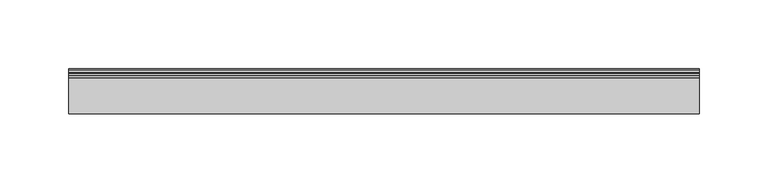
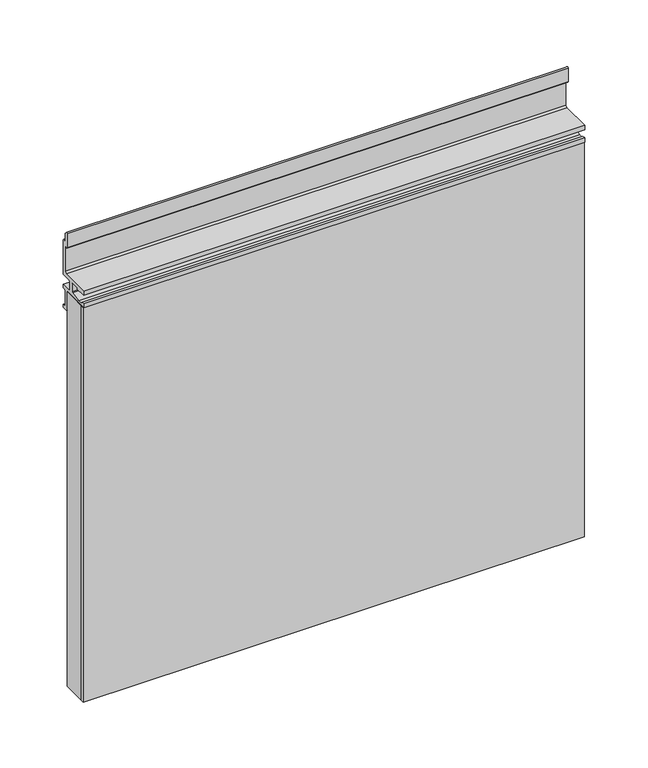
"""IFC4 building model written with IfcOpenShell, lengths in millimetres: furniture geometry, Geiger_GeigerOneCasegoods_WallTileAcceptsShelfandTil : 18Wx 1.25Dx 15H."""

from ifc_helpers import new_model, si_unit, point, frame, frame_2d, origin, origin_with_axes, place, context, project, spatial, polyline, circle_curve, trimmed, segment, composite_curve, outline, extrude, faceted_brep, source, transform, mapped, element, save


def furniture_85a4afa4(model_context):
    return source(origin(), model_context, "Body", "SolidModel", [
        faceted_brep([(0.0, -27.8892, 381.0), (0.0, -6.4008, 381.0), (0.0, -6.4008, 0.0), (0.0, -27.8892, 0.0), (45.5, -19.9008, 335.5), (45.5, -27.8892, 335.5), (45.5, -27.8892, 45.5), (45.5, -19.9008, 45.5), (62.0014, -8.4074, 318.9986), (62.0014, -19.9008, 318.9986), (62.0014, -19.9008, 62.0014), (62.0014, -8.4074, 62.0014), (64.6938, -9.1948, 316.3062), (64.6938, -8.4074, 316.3062), (64.6938, -8.4074, 64.6938), (64.6938, -9.1948, 64.6938), (66.294, -8.4074, 314.706), (66.294, -9.1948, 314.706), (66.294, -9.1948, 66.294), (66.294, -8.4074, 66.294), (67.4116, -9.1948, 313.5884), (67.4116, -8.4074, 313.5884), (67.4116, -8.4074, 67.4116), (67.4116, -9.1948, 67.4116), (69.0118, -8.4074, 311.9882), (69.0118, -9.1948, 311.9882), (69.0118, -9.1948, 69.0118), (69.0118, -8.4074, 69.0118), (70.0024, -6.4008, 310.9976), (70.0024, -8.4074, 310.9976), (70.0024, -8.4074, 70.0024), (70.0024, -6.4008, 70.0024), (43.0022, -8.4074, 337.9978), (43.0022, -6.4008, 337.9978), (43.0022, -6.4008, 43.0022), (43.0022, -8.4074, 43.0022), (43.9928, -9.1948, 337.0072), (43.9928, -8.4074, 337.0072), (43.9928, -8.4074, 43.9928), (43.9928, -9.1948, 43.9928), (45.593, -8.4074, 335.407), (45.593, -9.1948, 335.407), (45.593, -9.1948, 45.593), (45.593, -8.4074, 45.593), (46.7106, -9.1948, 334.2894), (46.7106, -8.4074, 334.2894), (46.7106, -8.4074, 46.7106), (46.7106, -9.1948, 46.7106), (48.3108, -8.4074, 332.6892), (48.3108, -9.1948, 332.6892), (48.3108, -9.1948, 48.3108), (48.3108, -8.4074, 48.3108), (51.0032, -13.4112, 329.9968), (51.0032, -8.4074, 329.9968), (51.0032, -8.4074, 51.0032), (51.0032, -13.4112, 51.0032), (31.8262, -16.4084, 349.1738), (34.8234, -13.4112, 346.1766), (34.8234, -13.4112, 34.8234), (31.8262, -16.4084, 31.8262), (8.001, -10.5664, 372.999), (13.8176, -16.4084, 367.1824), (13.8176, -16.4084, 13.8176), (8.001, -10.5664, 8.001), (8.001, -6.4008, 372.999), (8.001, -6.4008, 8.001), (457.2, -6.4008, 0.0), (457.2, -27.8892, 0.0), (411.7, -27.8892, 45.5), (411.7, -19.9008, 45.5), (395.1986, -19.9008, 62.0014), (395.1986, -8.4074, 62.0014), (392.5062, -8.4074, 64.6938), (392.5062, -9.1948, 64.6938), (390.906, -9.1948, 66.294), (390.906, -8.4074, 66.294), (389.7884, -8.4074, 67.4116), (389.7884, -9.1948, 67.4116), (388.1882, -9.1948, 69.0118), (388.1882, -8.4074, 69.0118), (387.1976, -8.4074, 70.0024), (387.1976, -6.4008, 70.0024), (414.1978, -6.4008, 43.0022), (414.1978, -8.4074, 43.0022), (413.2072, -8.4074, 43.9928), (413.2072, -9.1948, 43.9928), (411.607, -9.1948, 45.593), (411.607, -8.4074, 45.593), (410.4894, -8.4074, 46.7106), (410.4894, -9.1948, 46.7106), (408.8892, -9.1948, 48.3108), (408.8892, -8.4074, 48.3108), (406.1968, -8.4074, 51.0032), (406.1968, -13.4112, 51.0032), (422.3766, -13.4112, 34.8234), (425.3738, -16.4084, 31.8262), (443.3824, -16.4084, 13.8176), (449.199, -10.5664, 8.001), (449.199, -6.4008, 8.001), (457.2, -6.4008, 381.0), (457.2, -27.8892, 381.0), (411.7, -27.8892, 335.5), (411.7, -19.9008, 335.5), (395.1986, -19.9008, 318.9986), (395.1986, -8.4074, 318.9986), (392.5062, -8.4074, 316.3062), (392.5062, -9.1948, 316.3062), (390.906, -9.1948, 314.706), (390.906, -8.4074, 314.706), (389.7884, -8.4074, 313.5884), (389.7884, -9.1948, 313.5884), (388.1882, -9.1948, 311.9882), (388.1882, -8.4074, 311.9882), (387.1976, -8.4074, 310.9976), (387.1976, -6.4008, 310.9976), (414.1978, -6.4008, 337.9978), (414.1978, -8.4074, 337.9978), (413.2072, -8.4074, 337.0072), (413.2072, -9.1948, 337.0072), (411.607, -9.1948, 335.407), (411.607, -8.4074, 335.407), (410.4894, -8.4074, 334.2894), (410.4894, -9.1948, 334.2894), (408.8892, -9.1948, 332.6892), (408.8892, -8.4074, 332.6892), (406.1968, -8.4074, 329.9968), (406.1968, -13.4112, 329.9968), (422.3766, -13.4112, 346.1766), (425.3738, -16.4084, 349.1738), (443.3824, -16.4084, 367.1824), (449.199, -10.5664, 372.999), (449.199, -6.4008, 372.999)], [[[0, 1, 2, 3]], [[4, 5, 6, 7]], [[8, 9, 10, 11]], [[12, 13, 14, 15]], [[16, 17, 18, 19]], [[20, 21, 22, 23]], [[24, 25, 26, 27]], [[28, 29, 30, 31]], [[32, 33, 34, 35]], [[36, 37, 38, 39]], [[40, 41, 42, 43]], [[44, 45, 46, 47]], [[48, 49, 50, 51]], [[52, 53, 54, 55]], [[56, 57, 58, 59]], [[60, 61, 62, 63]], [[64, 60, 63, 65]], [[3, 2, 66, 67]], [[7, 6, 68, 69]], [[11, 10, 70, 71]], [[15, 14, 72, 73]], [[19, 18, 74, 75]], [[23, 22, 76, 77]], [[27, 26, 78, 79]], [[31, 30, 80, 81]], [[35, 34, 82, 83]], [[39, 38, 84, 85]], [[43, 42, 86, 87]], [[47, 46, 88, 89]], [[51, 50, 90, 91]], [[55, 54, 92, 93]], [[59, 58, 94, 95]], [[63, 62, 96, 97]], [[65, 63, 97, 98]], [[67, 66, 99, 100]], [[69, 68, 101, 102]], [[71, 70, 103, 104]], [[73, 72, 105, 106]], [[75, 74, 107, 108]], [[77, 76, 109, 110]], [[79, 78, 111, 112]], [[81, 80, 113, 114]], [[83, 82, 115, 116]], [[85, 84, 117, 118]], [[87, 86, 119, 120]], [[89, 88, 121, 122]], [[91, 90, 123, 124]], [[93, 92, 125, 126]], [[95, 94, 127, 128]], [[97, 96, 129, 130]], [[98, 97, 130, 131]], [[100, 99, 1, 0]], [[3, 67, 100, 0], [5, 101, 68, 6]], [[102, 101, 5, 4]], [[7, 69, 102, 4], [9, 103, 70, 10]], [[104, 103, 9, 8]], [[11, 71, 104, 8], [13, 105, 72, 14]], [[106, 105, 13, 12]], [[15, 73, 106, 12], [17, 107, 74, 18]], [[108, 107, 17, 16]], [[19, 75, 108, 16], [21, 109, 76, 22]], [[110, 109, 21, 20]], [[23, 77, 110, 20], [25, 111, 78, 26]], [[112, 111, 25, 24]], [[27, 79, 112, 24], [29, 113, 80, 30]], [[114, 113, 29, 28]], [[33, 115, 82, 34], [31, 81, 114, 28]], [[116, 115, 33, 32]], [[35, 83, 116, 32], [37, 117, 84, 38]], [[118, 117, 37, 36]], [[39, 85, 118, 36], [41, 119, 86, 42]], [[120, 119, 41, 40]], [[43, 87, 120, 40], [45, 121, 88, 46]], [[122, 121, 45, 44]], [[47, 89, 122, 44], [49, 123, 90, 50]], [[124, 123, 49, 48]], [[51, 91, 124, 48], [53, 125, 92, 54]], [[126, 125, 53, 52]], [[57, 127, 94, 58], [55, 93, 126, 52]], [[128, 127, 57, 56]], [[61, 129, 96, 62], [59, 95, 128, 56]], [[130, 129, 61, 60]], [[131, 130, 60, 64]], [[1, 99, 66, 2], [65, 98, 131, 64]]]),
        extrude(outline(composite_curve([segment(polyline([(-3.5052, 46.3366), (-2.6924, 45.5238), (-0.8128, 45.5238), (0.0, 44.7364), (0.0, 31.3252)]), True, "CONTINUOUS"), segment(trimmed(circle_curve(frame_2d((-0.8034421, 31.3345579)), 0.8034966), [point((0.0, 31.3252))], [point((-1.3716, 30.7664))], False, "CARTESIAN"), True, "CONTINUOUS"), segment(polyline([(-1.3716, 30.7664), (-2.8956, 32.2904), (-2.8956, 39.2246), (-3.7084, 40.012), (-5.6134, 40.012), (-6.4008, 40.8248), (-6.4008, 72.524), (-5.1054, 72.524), (-3.5052, 70.9238), (-3.5052, 46.3366)]), True, "CONTINUOUS")], self_intersect=False)), frame((331.2, 0.0, 0.0), z_axis=(1.0, 0.0, 0.0), x_axis=(0.0, 1.0, 0.0)), (0.0, 0.0, 1.0), 76.0),
        extrude(outline(composite_curve([segment(polyline([(-2.8956, 32.2904), (-2.8956, 39.2246), (-3.7084, 40.012), (-5.6134, 40.012), (-6.4008, 40.8248), (-6.4008, 72.524), (-5.1054, 72.524), (-3.5052, 70.9238), (-3.5052, 46.3366), (-2.6924, 45.5238), (-0.8128, 45.5238), (0.0, 44.7364), (0.0, 31.3252)]), True, "CONTINUOUS"), segment(trimmed(circle_curve(frame_2d((-0.8034421, 31.3345579)), 0.8034966), [point((0.0, 31.3252))], [point((-1.3716, 30.7664))], False, "CARTESIAN"), True, "CONTINUOUS"), segment(polyline([(-1.3716, 30.7664), (-2.8956, 32.2904)]), True, "CONTINUOUS")], self_intersect=False)), frame((50.0, 0.0, 0.0), z_axis=(1.0, 0.0, 0.0), x_axis=(0.0, 1.0, 0.0)), (0.0, 0.0, 1.0), 76.0),
        extrude(outline(polyline([(457.2, -27.8892), (457.2, -31.9008), (0.0, -31.9008), (0.0, -27.8892), (457.2, -27.8892)])), origin_with_axes(), (0.0, 0.0, 1.0), 381.0),
        extrude(outline(composite_curve([segment(polyline([(-3.506, 38.2336), (-3.506, 31.2994), (-2.6932, 30.512), (-0.7882, 30.512), (-0.0008, 29.6992), (-0.0008, -2.0), (-1.2962, -2.0), (-2.8964, -0.3998), (-2.8964, 24.1874), (-3.7092, 25.0002), (-5.5888, 25.0002), (-6.4016, 25.7876), (-6.4016, 39.1824128)]), True, "CONTINUOUS"), segment(trimmed(circle_curve(frame_2d((-5.5952144, 39.1824128)), 0.8063856), [point((-6.4016, 39.1824128))], [point((-5.0250136, 39.7526136))], False, "CARTESIAN"), True, "CONTINUOUS"), segment(polyline([(-5.0250136, 39.7526136), (-3.506, 38.2336)]), True, "CONTINUOUS")], self_intersect=False)), frame((12.5, 0.0, 0.0), z_axis=(1.0, 0.0, 0.0), x_axis=(0.0, 1.0, 0.0)), (0.0, 0.0, 1.0), 432.2),
        extrude(outline(composite_curve([segment(polyline([(-4.4958, 397.002), (-2.8956, 398.6022), (-2.8956, 421.5892), (-3.7084, 422.402), (-5.6134, 422.402), (-6.4008, 423.1894), (-6.4008, 436.5987124)]), True, "CONTINUOUS"), segment(trimmed(circle_curve(frame_2d((-5.6004203, 436.5987124)), 0.8003797), [point((-6.4008, 436.5987124))], [point((-5.0344663, 437.1646663))], False, "CARTESIAN"), True, "CONTINUOUS"), segment(polyline([(-5.0344663, 437.1646663), (-3.5052, 435.6354), (-3.5052, 428.7012), (-2.6924, 427.8884), (-0.8128, 427.8884), (0.0, 427.101), (0.0, 393.8016), (-9.6012, 393.8016), (-10.3886, 392.9888), (-10.3886, 384.9878), (-9.6012, 384.2004), (0.0, 384.2004), (0.0, 381.0), (-2.6924, 381.0), (-3.5052, 380.2126), (-3.5052, 365.7092), (-2.6924, 364.8964), (0.0, 364.8964), (0.0, 362.0008), (-5.6134, 362.0008), (-6.4008, 362.7882), (-6.4008, 381.0), (-32.4008, 381.0), (-32.4008, 384.9878), (-29.8958, 384.9878), (-29.8958, 383.3876), (-24.892, 383.3876), (-14.8082, 384.8608), (-14.4018, 385.572), (-14.4018, 393.8016), (-15.1892, 394.589), (-22.4028, 394.589), (-22.4028, 392.9888), (-32.4008, 392.9888), (-32.4008, 397.002), (-4.4958, 397.002)]), True, "CONTINUOUS")], self_intersect=False)), frame((0.0, 0.0, 0.0), z_axis=(1.0, 0.0, 0.0), x_axis=(0.0, 1.0, 0.0)), (0.0, 0.0, 1.0), 457.2),
    ])


if __name__ == "__main__":
    model = new_model("IFC4")
    model_context = context("Model", 3, world=origin())
    ifc_project = project(units=[si_unit("LENGTHUNIT", "METRE", prefix="MILLI")], contexts=[model_context])
    site = spatial("IfcSite", under=ifc_project)
    building = spatial("IfcBuilding", under=site)
    placement = place(None, origin())
    furniture_shape = furniture_85a4afa4(model_context)
    element("IfcFurniture", 1, ObjectType="Geiger_GeigerOneCasegoods_WallTileAcceptsShelfandTil : 18Wx 1.25Dx 15H", at=placement, inside=building, context=model_context, shape_type="MappedRepresentation", body=[
        mapped(furniture_shape, transform((0.0, 0.0, 0.0), x_axis=(1.0, 0.0, 0.0), y_axis=(0.0, 1.0, 0.0), z_axis=(0.0, 0.0, 1.0))),
    ])
    save(model, "model.ifc")
